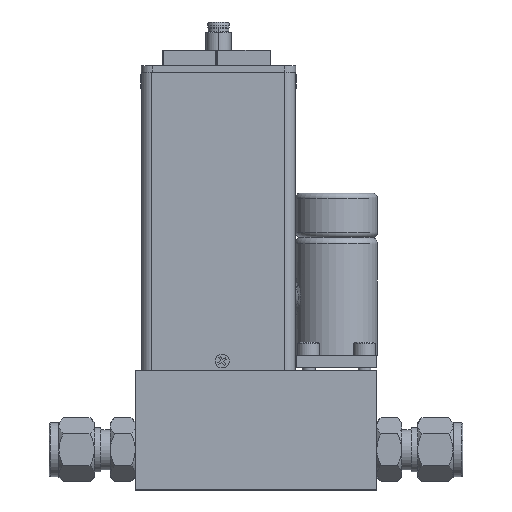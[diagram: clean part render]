
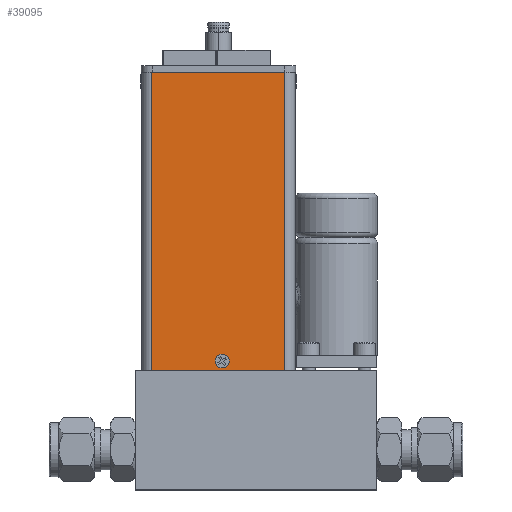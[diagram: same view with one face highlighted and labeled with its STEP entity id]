
A CAD part, top view. The second image highlights one B-rep face of the part: STEP entity #39095.
In plain terms, the highlighted planar face has unit normal (0, 0, 1).
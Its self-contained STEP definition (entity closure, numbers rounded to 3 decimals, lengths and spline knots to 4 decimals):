
#2133 = VECTOR ( 'NONE', #8839, 39.3701 ) ;
#2377 = FACE_OUTER_BOUND ( 'NONE', #27844, .T. ) ;
#3180 = CARTESIAN_POINT ( 'NONE',  ( -1.295, 1.485, 0.7345 ) ) ;
#3729 = AXIS2_PLACEMENT_3D ( 'NONE', #36002, #9318, #30616 ) ;
#4118 = VERTEX_POINT ( 'NONE', #30251 ) ;
#4826 = DIRECTION ( 'NONE',  ( 0., -1., 0. ) ) ;
#5558 = CARTESIAN_POINT ( 'NONE',  ( -0.4198, 1.54, 0.7345 ) ) ;
#6428 = VECTOR ( 'NONE', #4826, 39.3701 ) ;
#6808 = DIRECTION ( 'NONE',  ( 1., 0., 0. ) ) ;
#6884 = DIRECTION ( 'NONE',  ( 0., 1., 0. ) ) ;
#7571 = CARTESIAN_POINT ( 'NONE',  ( -0.4198, 1.603, 0.7345 ) ) ;
#8131 = VERTEX_POINT ( 'NONE', #59148 ) ;
#8505 = LINE ( 'NONE', #54478, #45667 ) ;
#8839 = DIRECTION ( 'NONE',  ( 0., 1., 0. ) ) ;
#9318 = DIRECTION ( 'NONE',  ( 0., 0., -1. ) ) ;
#10132 = EDGE_CURVE ( 'NONE', #8131, #47335, #8505, .T. ) ;
#11536 = DIRECTION ( 'NONE',  ( 0., -1., 0. ) ) ;
#14395 = ORIENTED_EDGE ( 'NONE', *, *, #25338, .T. ) ;
#14424 = ORIENTED_EDGE ( 'NONE', *, *, #25286, .F. ) ;
#17844 = CARTESIAN_POINT ( 'NONE',  ( -1.295, 5.1995, 0.7345 ) ) ;
#21503 = AXIS2_PLACEMENT_3D ( 'NONE', #7571, #32597, #6884 ) ;
#25040 = EDGE_CURVE ( 'NONE', #46147, #47335, #31206, .T. ) ;
#25286 = EDGE_CURVE ( 'NONE', #46147, #54580, #32532, .T. ) ;
#25317 = ORIENTED_EDGE ( 'NONE', *, *, #60317, .T. ) ;
#25338 = EDGE_CURVE ( 'NONE', #8131, #54580, #58868, .T. ) ;
#27777 = FACE_BOUND ( 'NONE', #35521, .T. ) ;
#27844 = EDGE_LOOP ( 'NONE', ( #61661, #14395, #14424, #61590 ) ) ;
#30251 = CARTESIAN_POINT ( 'NONE',  ( -0.4198, 1.666, 0.7345 ) ) ;
#30616 = DIRECTION ( 'NONE',  ( 0., 1., 0. ) ) ;
#31206 = LINE ( 'NONE', #45749, #6428 ) ;
#32532 = LINE ( 'NONE', #53133, #34603 ) ;
#32597 = DIRECTION ( 'NONE',  ( 0., 0., -1. ) ) ;
#33529 = PLANE ( 'NONE',  #39720 ) ;
#34603 = VECTOR ( 'NONE', #6808, 39.3701 ) ;
#35521 = EDGE_LOOP ( 'NONE', ( #25317, #57913 ) ) ;
#36002 = CARTESIAN_POINT ( 'NONE',  ( -0.4198, 1.603, 0.7345 ) ) ;
#39095 = ADVANCED_FACE ( 'NONE', ( #2377, #27777 ), #33529, .T. ) ;
#39720 = AXIS2_PLACEMENT_3D ( 'NONE', #49048, #43975, #11536 ) ;
#41253 = CARTESIAN_POINT ( 'NONE',  ( 0.361, 5.1995, 0.7345 ) ) ;
#43975 = DIRECTION ( 'NONE',  ( 0., 0., 1. ) ) ;
#44334 = CARTESIAN_POINT ( 'NONE',  ( 0.361, 1.485, 0.7345 ) ) ;
#45342 = DIRECTION ( 'NONE',  ( -1., 0., 0. ) ) ;
#45667 = VECTOR ( 'NONE', #45342, 39.3701 ) ;
#45749 = CARTESIAN_POINT ( 'NONE',  ( -1.295, 1.485, 0.7345 ) ) ;
#46147 = VERTEX_POINT ( 'NONE', #17844 ) ;
#47335 = VERTEX_POINT ( 'NONE', #3180 ) ;
#49048 = CARTESIAN_POINT ( 'NONE',  ( -0.467, 1.485, 0.7345 ) ) ;
#50667 = CIRCLE ( 'NONE', #21503, 0.063 ) ;
#53133 = CARTESIAN_POINT ( 'NONE',  ( -0.467, 5.1995, 0.7345 ) ) ;
#53433 = EDGE_CURVE ( 'NONE', #53514, #4118, #63133, .T. ) ;
#53514 = VERTEX_POINT ( 'NONE', #5558 ) ;
#54478 = CARTESIAN_POINT ( 'NONE',  ( -0.467, 1.485, 0.7345 ) ) ;
#54580 = VERTEX_POINT ( 'NONE', #41253 ) ;
#57913 = ORIENTED_EDGE ( 'NONE', *, *, #53433, .T. ) ;
#58868 = LINE ( 'NONE', #44334, #2133 ) ;
#59148 = CARTESIAN_POINT ( 'NONE',  ( 0.361, 1.485, 0.7345 ) ) ;
#60317 = EDGE_CURVE ( 'NONE', #4118, #53514, #50667, .T. ) ;
#61590 = ORIENTED_EDGE ( 'NONE', *, *, #25040, .T. ) ;
#61661 = ORIENTED_EDGE ( 'NONE', *, *, #10132, .F. ) ;
#63133 = CIRCLE ( 'NONE', #3729, 0.063 ) ;
